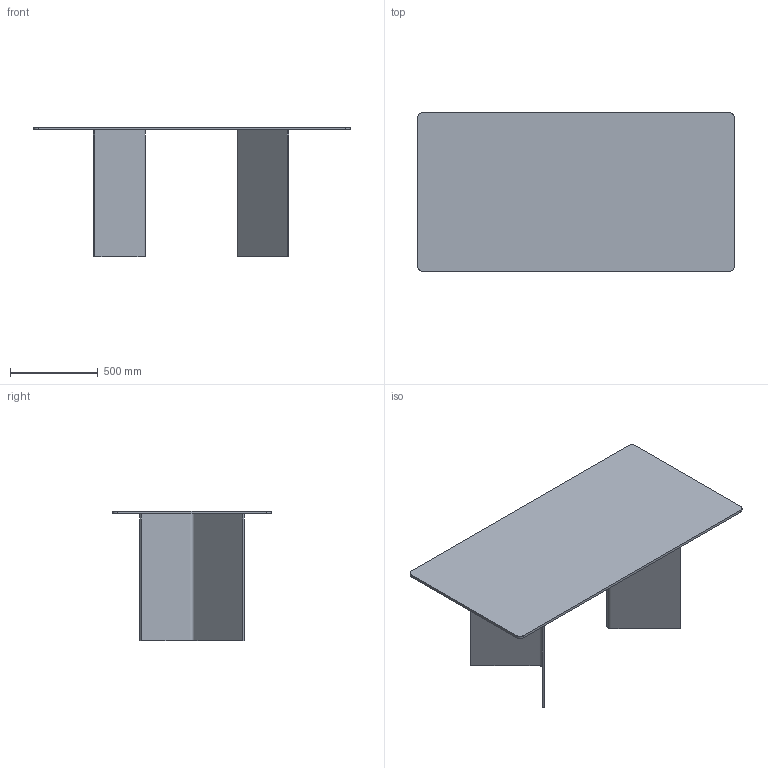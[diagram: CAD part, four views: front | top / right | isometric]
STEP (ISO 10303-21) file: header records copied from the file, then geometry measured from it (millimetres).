
FILE_DESCRIPTION(/* description */ (''),/* implementation_level */ '2;1');
FILE_NAME(/* name */ '216618 - corner 180x90',/* time_stamp */ '2014-07-31T16:07:02+02:00',/* author */ (''),/* organization */ (''),/* preprocessor_version */ 'ST-DEVELOPER v10',/* originating_system */ '',/* authorisation */ '');
FILE_SCHEMA (('CONFIG_CONTROL_DESIGN'));
Length unit declared in the file: millimetre
Products named in the file (1): 1
Bounding box: 1800 x 900 x 735 mm (x, y, z)
Volume: 39337745.5 mm3; surface area: 5755958.2 mm2
Topology: 3 solids, 3 shells, 24 faces, 54 edges, 36 vertices
Faces by surface type: plane 16, bspline 8
Entity records: 758 total; most frequent: CARTESIAN_POINT 314, ORIENTED_EDGE 108, EDGE_CURVE 54, VERTEX_POINT 36, B_SPLINE_CURVE_WITH_KNOTS 30, ADVANCED_FACE 24, FACE_OUTER_BOUND 24, EDGE_LOOP 24
